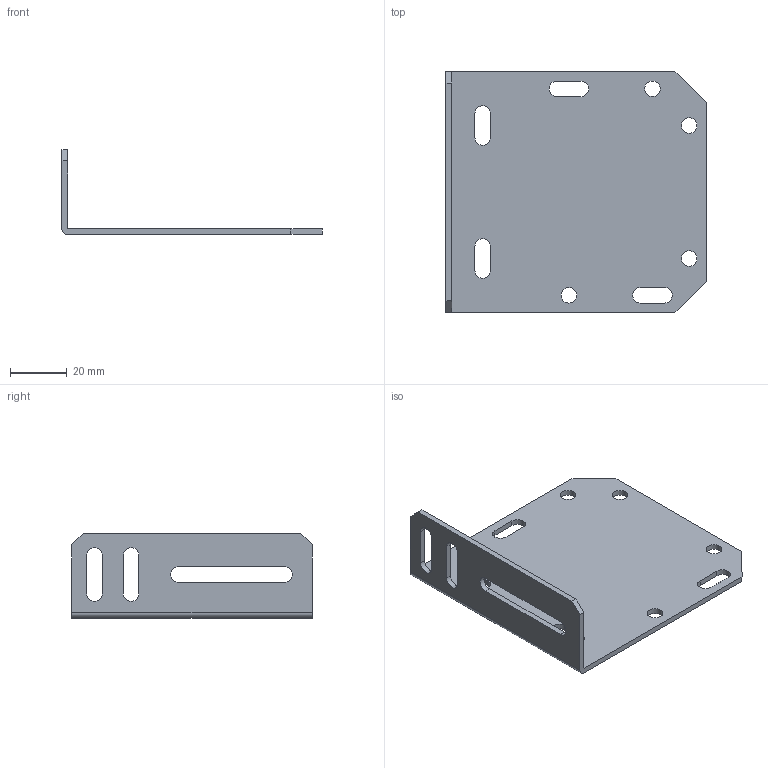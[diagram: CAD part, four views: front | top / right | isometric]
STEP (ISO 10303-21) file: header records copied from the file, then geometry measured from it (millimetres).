
FILE_DESCRIPTION(/* description */ (''),/* implementation_level */ '2;1');
FILE_NAME(/* name */ '3DCAD_BT96_1.stp',/* time_stamp */ '2017-04-12T16:01:55+02:00',/* author */ ('CC2'),/* organization */ ('Leuze electronic'),/* preprocessor_version */ 'ST-DEVELOPER v15',/* originating_system */ 'SIEMENS PLM Software NX 8.5',/* authorisation */ '');
FILE_SCHEMA (('AUTOMOTIVE_DESIGN { 1 0 10303 214 3 1 1 1 }'));
Length unit declared in the file: millimetre
Products named in the file (1): 011296_B
Bounding box: 92 x 85 x 30 mm (x, y, z)
Volume: 18439.6 mm3; surface area: 19996.7 mm2
Topology: 1 solids, 1 shells, 46 faces, 132 edges, 88 vertices
Faces by surface type: plane 26, cylinder 20
Full cylindrical faces by diameter (mm): 5.5 x4
Entity records: 1564 total; most frequent: CARTESIAN_POINT 263, DIRECTION 262, ORIENTED_EDGE 256, EDGE_CURVE 128, VERTEX_POINT 88, LINE 88, VECTOR 88, AXIS2_PLACEMENT_3D 87
